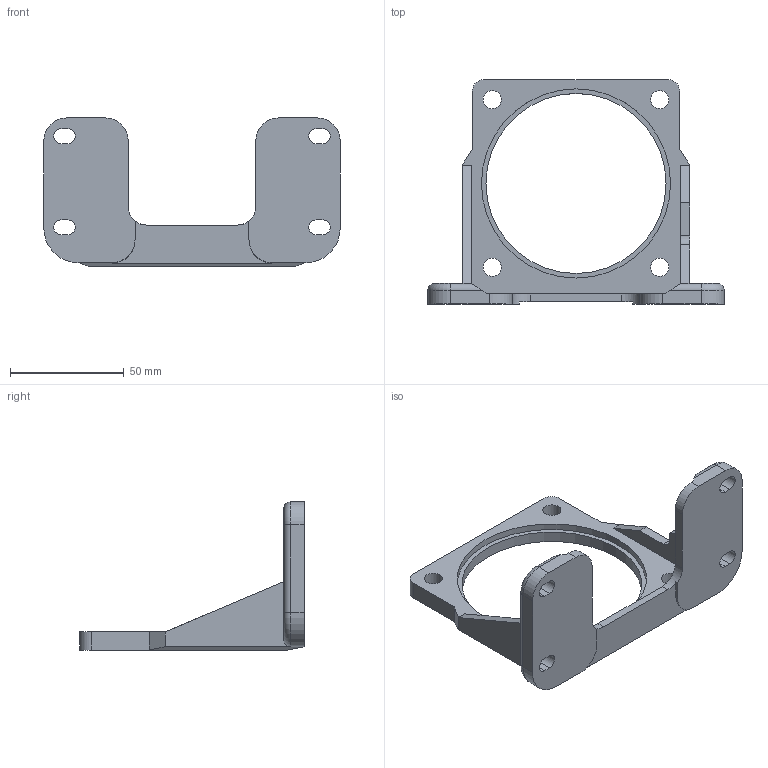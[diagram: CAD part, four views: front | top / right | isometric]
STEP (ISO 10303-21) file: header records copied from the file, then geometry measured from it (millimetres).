
FILE_DESCRIPTION((''),'2;1');
FILE_NAME('C:\Documents and Settings\Administrator\바탕 화면\SPL-9B.stp','2014-06-20T10:33:59',('kdhkdh'),(''),'Autodesk Inventor 2011','Autodesk Inventor 2011','');
FILE_SCHEMA(('AUTOMOTIVE_DESIGN { 1 0 10303 214 1 1 1 1 }'));
Length unit declared in the file: millimetre
Products named in the file (1): SPL-9B
Bounding box: 130 x 98.5 x 65 mm (x, y, z)
Volume: 67616.3 mm3; surface area: 28228.2 mm2
Topology: 1 solids, 1 shells, 84 faces, 223 edges, 142 vertices
Faces by surface type: plane 45, cylinder 31, cone 4, torus 4
Full cylindrical faces by diameter (mm): 8 x4, 79 x1, 83 x1
Entity records: 2613 total; most frequent: DIRECTION 457, CARTESIAN_POINT 440, ORIENTED_EDGE 426, EDGE_CURVE 213, AXIS2_PLACEMENT_3D 159, VERTEX_POINT 142, VECTOR 139, LINE 139
